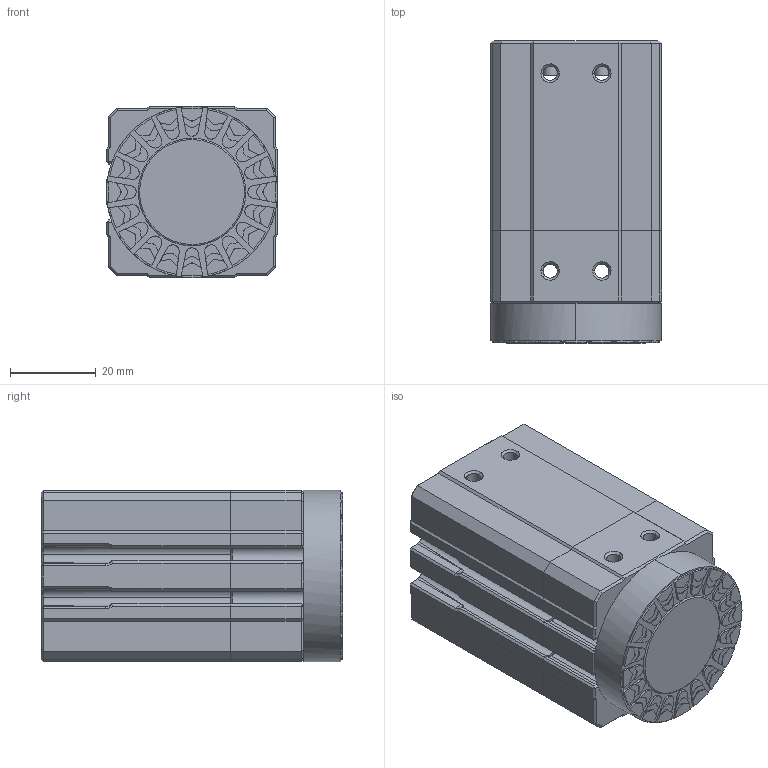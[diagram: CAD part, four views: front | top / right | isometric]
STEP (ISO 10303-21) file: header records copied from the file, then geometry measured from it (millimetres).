
FILE_DESCRIPTION (( 'STEP AP203' ), '1' );
FILE_NAME ('CHM40.STEP', '2021-06-14T18:27:21', ( '' ), ( '' ), 'SwSTEP 2.0', 'SolidWorks 2019', '' );
FILE_SCHEMA (( 'CONFIG_CONTROL_DESIGN' ));
Length unit declared in the file: millimetre
Products named in the file (1): CHM40
Bounding box: 40 x 70.2 x 40 mm (x, y, z)
Surface area: 17871.3 mm2 (no closed solid volume)
Topology: 0 solids, 2 shells, 606 faces, 1560 edges, 988 vertices
Faces by surface type: plane 388, cylinder 156, cone 52, torus 10
Entity records: 22583 total; most frequent: CARTESIAN_POINT 11016, ORIENTED_EDGE 3030, B_SPLINE_CURVE_WITH_KNOTS 1560, EDGE_CURVE 1560, DIRECTION 1214, VERTEX_POINT 988, EDGE_LOOP 657, AXIS2_PLACEMENT_3D 607
